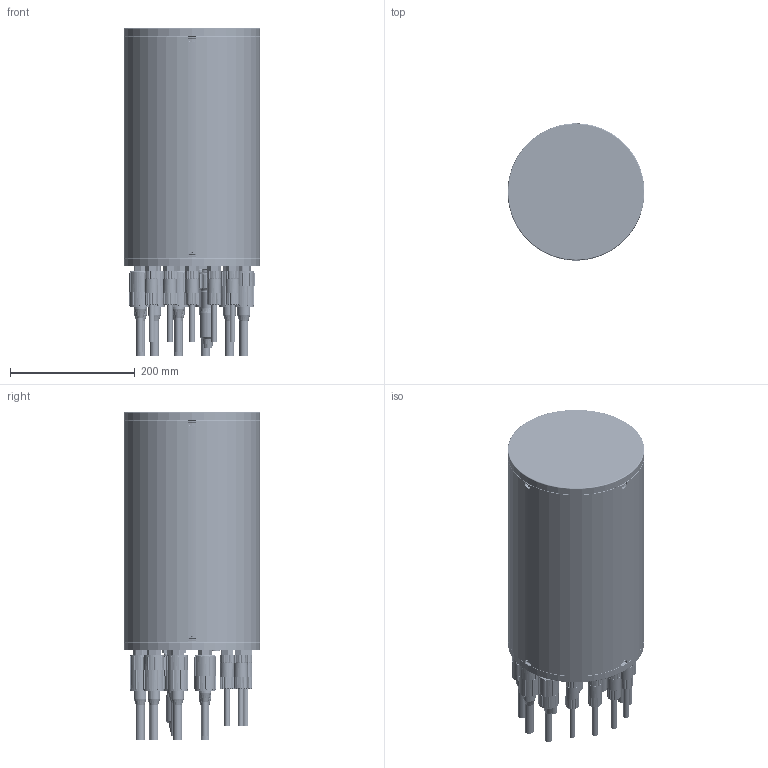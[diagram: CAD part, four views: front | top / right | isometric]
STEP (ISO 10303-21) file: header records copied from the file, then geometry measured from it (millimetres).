
FILE_DESCRIPTION (( 'STEP AP214' ), '1' );
FILE_NAME ('H1 ASSEMBLY, SIMPLE, MARINESITU.STEP', '2026-05-07T17:09:03', ( '' ), ( '' ), 'SwSTEP 2.0', 'SolidWorks 2020', '' );
FILE_SCHEMA (( 'AUTOMOTIVE_DESIGN' ));
Length unit declared in the file: metre
Products named in the file (1): H1 ASSEMBLY, SIMPLE, MARINESITU
Bounding box: 219.2 x 219.2 x 523.75 mm (x, y, z)
Surface area: 1157327 mm2 (no closed solid volume)
Topology: 0 solids, 117 shells, 13842 faces, 36258 edges, 23330 vertices
Faces by surface type: plane 4903, bspline 4568, cylinder 3126, cone 852, torus 377, sphere 16
Entity records: 782225 total; most frequent: CARTESIAN_POINT 325182, ORIENTED_EDGE 70898, DIRECTION 49262, EDGE_CURVE 35693, VERTEX_POINT 23238, VECTOR 17898, LINE 17898, AXIS2_PLACEMENT_3D 15682
